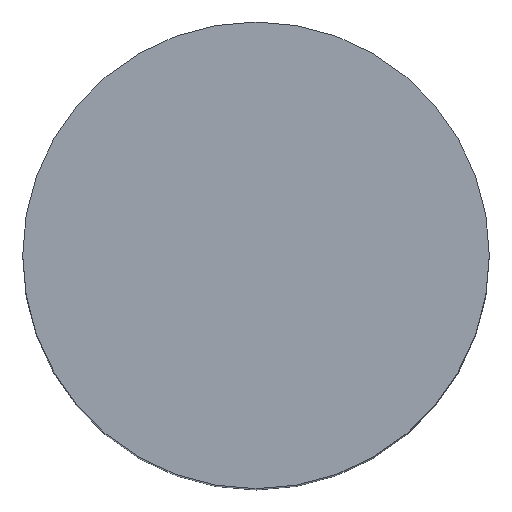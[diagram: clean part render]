
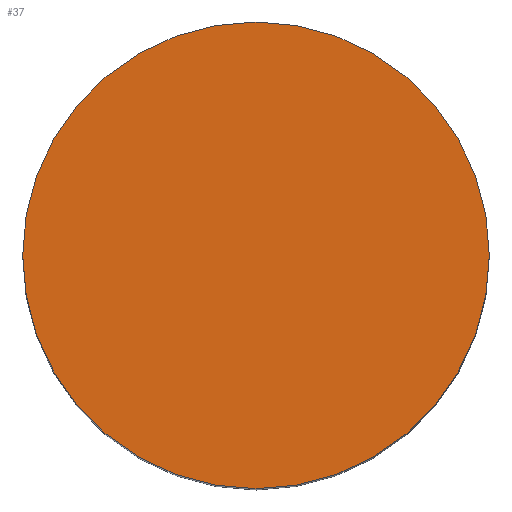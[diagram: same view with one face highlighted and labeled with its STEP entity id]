
A CAD part, top view. The second image highlights one B-rep face of the part: STEP entity #37.
In plain terms, the highlighted planar face has unit normal (0, 0, 1).
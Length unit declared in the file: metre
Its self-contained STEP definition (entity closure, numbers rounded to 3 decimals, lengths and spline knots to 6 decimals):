
#12=PLANE('',#47);
#20=ORIENTED_EDGE('',*,*,#22,.T.);
#22=EDGE_CURVE('',#25,#25,#27,.T.);
#25=VERTEX_POINT('',#65);
#27=CIRCLE('',#45,0.0005);
#30=EDGE_LOOP('',(#20));
#33=FACE_BOUND('',#30,.T.);
#37=ADVANCED_FACE('',(#33),#12,.T.);
#45=AXIS2_PLACEMENT_3D('',#64,#53,#54);
#47=AXIS2_PLACEMENT_3D('',#69,#58,#59);
#53=DIRECTION('',(0.,0.,1.));
#54=DIRECTION('',(0.,-1.,0.));
#58=DIRECTION('',(0.,0.,1.));
#59=DIRECTION('',(0.,-1.,0.));
#64=CARTESIAN_POINT('',(-0.03645,0.0063,-0.0284));
#65=CARTESIAN_POINT('',(-0.03645,0.0068,-0.0284));
#69=CARTESIAN_POINT('',(-0.03645,0.0063,-0.0284));
